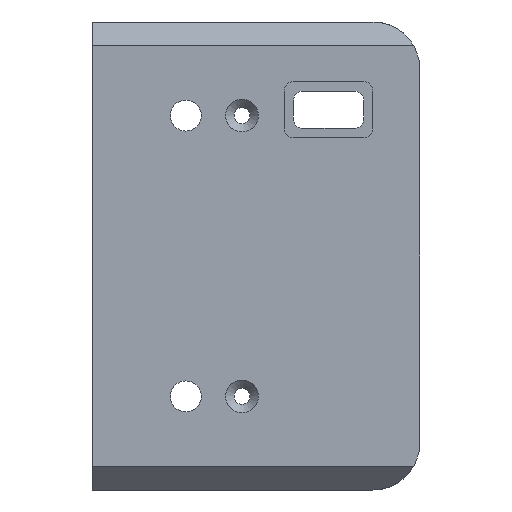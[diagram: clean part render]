
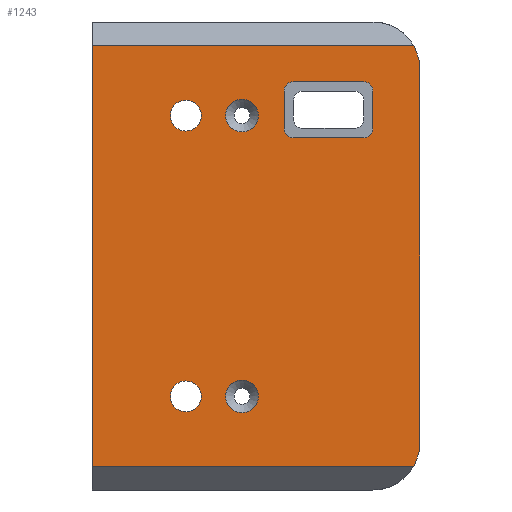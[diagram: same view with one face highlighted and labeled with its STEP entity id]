
A CAD part, front view. The second image highlights one B-rep face of the part: STEP entity #1243.
In plain terms, the highlighted planar face has unit normal (0, -1, 0).
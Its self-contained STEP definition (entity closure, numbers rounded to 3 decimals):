
#154=FACE_BOUND('',#323,.T.);
#155=FACE_BOUND('',#324,.T.);
#156=FACE_BOUND('',#325,.T.);
#157=FACE_BOUND('',#326,.T.);
#158=FACE_BOUND('',#327,.T.);
#189=PLANE('',#1383);
#248=FACE_OUTER_BOUND('',#322,.T.);
#322=EDGE_LOOP('',(#1141,#1142,#1143,#1144,#1145,#1146));
#323=EDGE_LOOP('',(#1147,#1148,#1149,#1150,#1151,#1152,#1153,#1154));
#324=EDGE_LOOP('',(#1155));
#325=EDGE_LOOP('',(#1156));
#326=EDGE_LOOP('',(#1157));
#327=EDGE_LOOP('',(#1158));
#330=LINE('',#1773,#429);
#334=LINE('',#1785,#433);
#338=LINE('',#1797,#437);
#342=LINE('',#1808,#441);
#407=LINE('',#2031,#506);
#418=LINE('',#2057,#517);
#423=LINE('',#2070,#522);
#426=LINE('',#2080,#525);
#429=VECTOR('',#1410,10.);
#433=VECTOR('',#1422,10.);
#437=VECTOR('',#1434,10.);
#441=VECTOR('',#1446,10.);
#506=VECTOR('',#1679,10.);
#517=VECTOR('',#1702,10.);
#522=VECTOR('',#1717,10.);
#525=VECTOR('',#1730,10.);
#526=CIRCLE('',#1268,2.);
#528=CIRCLE('',#1272,2.);
#530=CIRCLE('',#1276,2.);
#532=CIRCLE('',#1280,2.);
#550=CIRCLE('',#1325,3.5);
#558=CIRCLE('',#1340,3.3);
#559=CIRCLE('',#1342,3.5);
#567=CIRCLE('',#1357,3.3);
#572=CIRCLE('',#1374,10.);
#573=CIRCLE('',#1379,10.);
#584=VERTEX_POINT('',#1763);
#585=VERTEX_POINT('',#1764);
#588=VERTEX_POINT('',#1772);
#590=VERTEX_POINT('',#1778);
#592=VERTEX_POINT('',#1784);
#594=VERTEX_POINT('',#1790);
#596=VERTEX_POINT('',#1796);
#598=VERTEX_POINT('',#1802);
#637=VERTEX_POINT('',#1918);
#649=VERTEX_POINT('',#1955);
#650=VERTEX_POINT('',#1959);
#662=VERTEX_POINT('',#1996);
#672=VERTEX_POINT('',#2028);
#673=VERTEX_POINT('',#2030);
#681=VERTEX_POINT('',#2054);
#682=VERTEX_POINT('',#2056);
#684=VERTEX_POINT('',#2062);
#686=VERTEX_POINT('',#2072);
#688=EDGE_CURVE('',#584,#585,#526,.T.);
#692=EDGE_CURVE('',#585,#588,#330,.T.);
#695=EDGE_CURVE('',#588,#590,#528,.T.);
#698=EDGE_CURVE('',#590,#592,#334,.T.);
#701=EDGE_CURVE('',#592,#594,#530,.T.);
#704=EDGE_CURVE('',#594,#596,#338,.T.);
#707=EDGE_CURVE('',#596,#598,#532,.T.);
#710=EDGE_CURVE('',#598,#584,#342,.T.);
#764=EDGE_CURVE('',#637,#637,#550,.T.);
#782=EDGE_CURVE('',#649,#649,#558,.T.);
#784=EDGE_CURVE('',#650,#650,#559,.T.);
#802=EDGE_CURVE('',#662,#662,#567,.T.);
#819=EDGE_CURVE('',#673,#672,#407,.T.);
#832=EDGE_CURVE('',#681,#682,#418,.T.);
#835=EDGE_CURVE('',#673,#684,#572,.T.);
#839=EDGE_CURVE('',#684,#681,#423,.T.);
#840=EDGE_CURVE('',#686,#672,#573,.T.);
#844=EDGE_CURVE('',#682,#686,#426,.T.);
#1141=ORIENTED_EDGE('',*,*,#835,.F.);
#1142=ORIENTED_EDGE('',*,*,#819,.T.);
#1143=ORIENTED_EDGE('',*,*,#840,.F.);
#1144=ORIENTED_EDGE('',*,*,#844,.F.);
#1145=ORIENTED_EDGE('',*,*,#832,.F.);
#1146=ORIENTED_EDGE('',*,*,#839,.F.);
#1147=ORIENTED_EDGE('',*,*,#701,.T.);
#1148=ORIENTED_EDGE('',*,*,#704,.T.);
#1149=ORIENTED_EDGE('',*,*,#707,.T.);
#1150=ORIENTED_EDGE('',*,*,#710,.T.);
#1151=ORIENTED_EDGE('',*,*,#688,.T.);
#1152=ORIENTED_EDGE('',*,*,#692,.T.);
#1153=ORIENTED_EDGE('',*,*,#695,.T.);
#1154=ORIENTED_EDGE('',*,*,#698,.T.);
#1155=ORIENTED_EDGE('',*,*,#764,.T.);
#1156=ORIENTED_EDGE('',*,*,#782,.T.);
#1157=ORIENTED_EDGE('',*,*,#784,.T.);
#1158=ORIENTED_EDGE('',*,*,#802,.T.);
#1243=ADVANCED_FACE('',(#248,#154,#155,#156,#157,#158),#189,.T.);
#1268=AXIS2_PLACEMENT_3D('',#1765,#1402,#1403);
#1272=AXIS2_PLACEMENT_3D('',#1779,#1415,#1416);
#1276=AXIS2_PLACEMENT_3D('',#1791,#1427,#1428);
#1280=AXIS2_PLACEMENT_3D('',#1803,#1439,#1440);
#1325=AXIS2_PLACEMENT_3D('',#1919,#1561,#1562);
#1340=AXIS2_PLACEMENT_3D('',#1956,#1601,#1602);
#1342=AXIS2_PLACEMENT_3D('',#1960,#1606,#1607);
#1357=AXIS2_PLACEMENT_3D('',#1997,#1646,#1647);
#1374=AXIS2_PLACEMENT_3D('',#2063,#1707,#1708);
#1379=AXIS2_PLACEMENT_3D('',#2073,#1720,#1721);
#1383=AXIS2_PLACEMENT_3D('',#2081,#1731,#1732);
#1402=DIRECTION('center_axis',(0.,1.,0.));
#1403=DIRECTION('ref_axis',(0.,0.,-1.));
#1410=DIRECTION('',(0.,0.,1.));
#1415=DIRECTION('center_axis',(0.,1.,0.));
#1416=DIRECTION('ref_axis',(-1.,0.,0.));
#1422=DIRECTION('',(1.,0.,0.));
#1427=DIRECTION('center_axis',(0.,1.,0.));
#1428=DIRECTION('ref_axis',(0.,0.,1.));
#1434=DIRECTION('',(0.,0.,-1.));
#1439=DIRECTION('center_axis',(0.,1.,0.));
#1440=DIRECTION('ref_axis',(1.,0.,0.));
#1446=DIRECTION('',(-1.,0.,0.));
#1561=DIRECTION('center_axis',(0.,1.,0.));
#1562=DIRECTION('ref_axis',(1.,0.,0.));
#1601=DIRECTION('center_axis',(0.,1.,0.));
#1602=DIRECTION('ref_axis',(1.,0.,0.));
#1606=DIRECTION('center_axis',(0.,1.,0.));
#1607=DIRECTION('ref_axis',(1.,0.,0.));
#1646=DIRECTION('center_axis',(0.,1.,0.));
#1647=DIRECTION('ref_axis',(1.,0.,0.));
#1679=DIRECTION('',(0.,0.,1.));
#1702=DIRECTION('',(0.,0.,1.));
#1707=DIRECTION('center_axis',(0.,1.,0.));
#1708=DIRECTION('ref_axis',(0.707,0.,-0.707));
#1717=DIRECTION('',(-1.,0.,0.));
#1720=DIRECTION('center_axis',(0.,1.,0.));
#1721=DIRECTION('ref_axis',(0.707,0.,0.707));
#1730=DIRECTION('',(1.,0.,0.));
#1731=DIRECTION('center_axis',(0.,-1.,0.));
#1732=DIRECTION('ref_axis',(0.,0.,-1.));
#1763=CARTESIAN_POINT('',(43.,0.,25.25));
#1764=CARTESIAN_POINT('',(41.,0.,27.25));
#1765=CARTESIAN_POINT('Origin',(43.,0.,27.25));
#1772=CARTESIAN_POINT('',(41.,0.,35.25));
#1773=CARTESIAN_POINT('',(41.,0.,17.625));
#1778=CARTESIAN_POINT('',(43.,0.,37.25));
#1779=CARTESIAN_POINT('Origin',(43.,0.,35.25));
#1784=CARTESIAN_POINT('',(58.,0.,37.25));
#1785=CARTESIAN_POINT('',(64.,0.,37.25));
#1790=CARTESIAN_POINT('',(60.,0.,35.25));
#1791=CARTESIAN_POINT('Origin',(58.,0.,35.25));
#1796=CARTESIAN_POINT('',(60.,0.,27.25));
#1797=CARTESIAN_POINT('',(60.,0.,13.625));
#1802=CARTESIAN_POINT('',(58.,0.,25.25));
#1803=CARTESIAN_POINT('Origin',(58.,0.,27.25));
#1808=CARTESIAN_POINT('',(56.5,0.,25.25));
#1918=CARTESIAN_POINT('',(28.5,0.,-30.));
#1919=CARTESIAN_POINT('Origin',(32.,0.,-30.));
#1955=CARTESIAN_POINT('',(16.7,0.,-30.));
#1956=CARTESIAN_POINT('Origin',(20.,0.,-30.));
#1959=CARTESIAN_POINT('',(28.5,0.,30.));
#1960=CARTESIAN_POINT('Origin',(32.,0.,30.));
#1996=CARTESIAN_POINT('',(16.7,0.,30.));
#1997=CARTESIAN_POINT('Origin',(20.,0.,30.));
#2028=CARTESIAN_POINT('',(70.,0.,40.));
#2030=CARTESIAN_POINT('',(70.,0.,-40.));
#2031=CARTESIAN_POINT('',(70.,0.,0.));
#2054=CARTESIAN_POINT('',(0.,0.,-45.));
#2056=CARTESIAN_POINT('',(0.,0.,45.));
#2057=CARTESIAN_POINT('',(0.,0.,0.));
#2062=CARTESIAN_POINT('',(68.66,0.,-45.));
#2063=CARTESIAN_POINT('Origin',(60.,0.,-40.));
#2070=CARTESIAN_POINT('',(60.,0.,-45.));
#2072=CARTESIAN_POINT('',(68.66,0.,45.));
#2073=CARTESIAN_POINT('Origin',(60.,0.,40.));
#2080=CARTESIAN_POINT('',(60.,0.,45.));
#2081=CARTESIAN_POINT('Origin',(70.,0.,0.));
